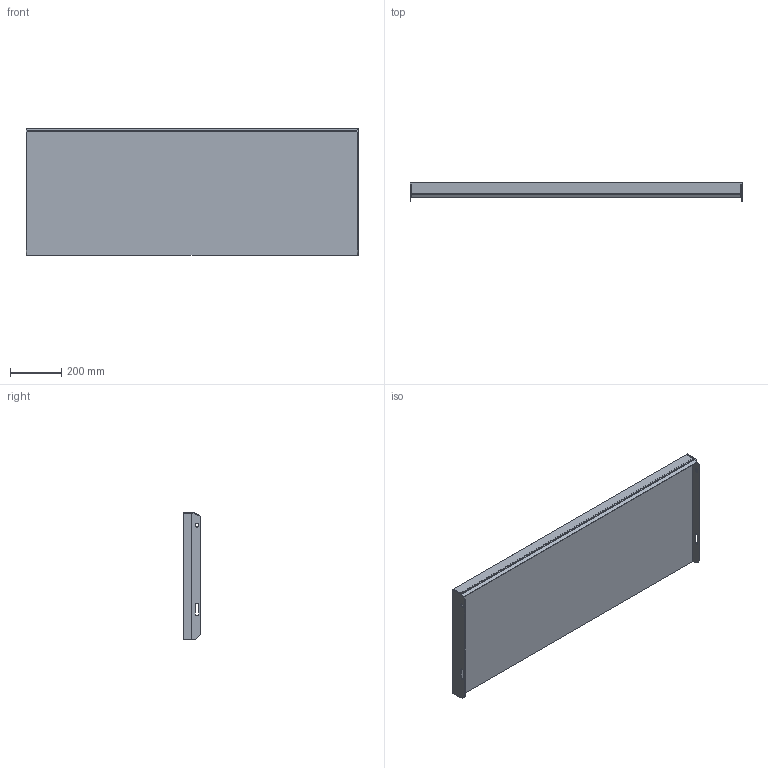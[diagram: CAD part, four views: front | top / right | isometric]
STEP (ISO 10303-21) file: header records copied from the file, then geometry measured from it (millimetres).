
FILE_DESCRIPTION (( 'STEP AP203' ), '1' );
FILE_NAME ('148813051, Plan TH6, 1300x500, vfz.STEP', '2020-10-21T13:18:21', ( '' ), ( '' ), 'SwSTEP 2.0', 'SolidWorks 2019', '' );
FILE_SCHEMA (( 'CONFIG_CONTROL_DESIGN' ));
Length unit declared in the file: millimetre
Products named in the file (4): SW0000041754; SW0000041802; 148813051, Plan TH6, 1300x500, vfz; SW0000041378
Assembly tree (4 placements, depth 2):
  148813051, Plan TH6, 1300x500, vfz
    SW0000041802
    SW0000041378  x2
    SW0000041754
Bounding box: 1300 x 70 x 497 mm (x, y, z)
Volume: 22807917.3 mm3; surface area: 1709256.8 mm2
Topology: 4 solids, 4 shells, 59 faces, 142 edges, 92 vertices
Faces by surface type: plane 45, cylinder 14
Entity records: 1693 total; most frequent: DIRECTION 221, CARTESIAN_POINT 220, ORIENTED_EDGE 206, EDGE_CURVE 103, LINE 87, VECTOR 87, AXIS2_PLACEMENT_3D 67, VERTEX_POINT 66
